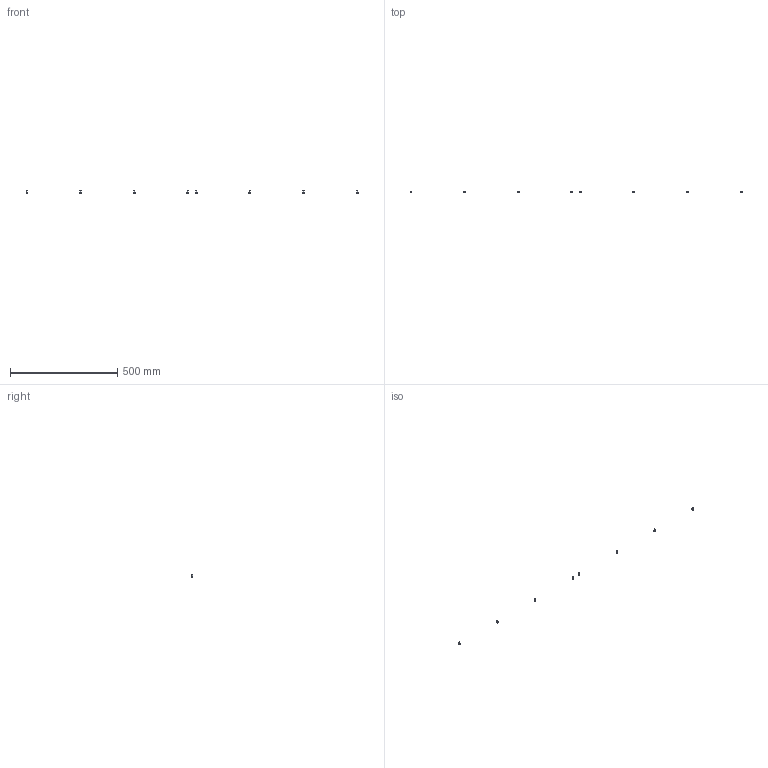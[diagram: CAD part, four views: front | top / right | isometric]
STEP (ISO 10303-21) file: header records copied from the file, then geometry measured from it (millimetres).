
FILE_DESCRIPTION(/* description */ (''),/* implementation_level */ '2;1');
FILE_NAME(/* name */ '4.frame-door#4.7#CB5-8',/* time_stamp */ '2014-12-01T20:12:59+01:00',/* author */ (''),/* organization */ (''),/* preprocessor_version */ 'ST-DEVELOPER v14',/* originating_system */ '',/* authorisation */ '');
FILE_SCHEMA (('AUTOMOTIVE_DESIGN'));
Length unit declared in the file: millimetre
Products named in the file (2): Document; screw DIN912-like, M5x08
Assembly tree (4 placements, depth 2):
  Document
    screw DIN912-like, M5x08  x4
Bounding box: 1548.5 x 8.49 x 13 mm (x, y, z)
Volume: 3192.4 mm3; surface area: 3159 mm2
Topology: 8 solids, 8 shells, 200 faces, 448 edges, 264 vertices
Faces by surface type: plane 120, bspline 80
Entity records: 6853 total; most frequent: CARTESIAN_POINT 3147, B_SPLINE_CURVE_WITH_KNOTS 630, ORIENTED_EDGE 540, PCURVE 540, DEFINITIONAL_REPRESENTATION 540, SURFACE_CURVE 270, EDGE_CURVE 270, VERTEX_POINT 165
